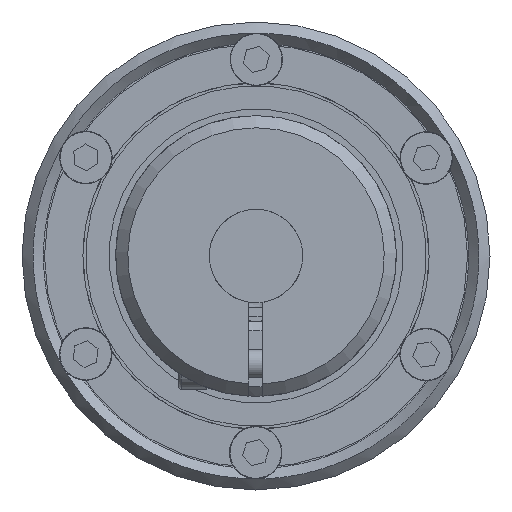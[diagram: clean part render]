
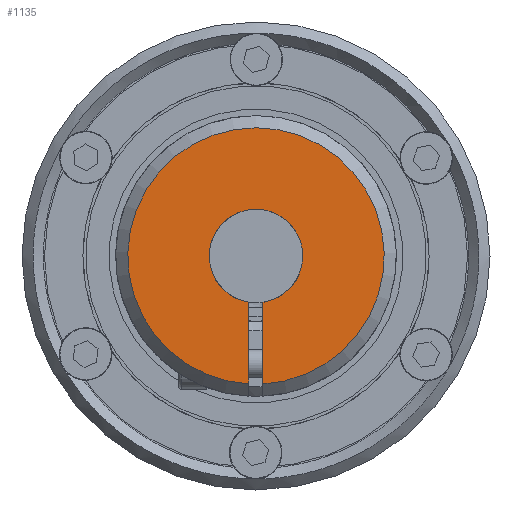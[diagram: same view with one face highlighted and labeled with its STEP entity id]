
A CAD part, left-side view. The second image highlights one B-rep face of the part: STEP entity #1135.
In plain terms, the highlighted planar face has unit normal (-1, 0, 0) as drawn and (0, 1, 0) by its records, which use the part's own axes.
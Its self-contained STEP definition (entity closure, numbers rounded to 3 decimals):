
#1135 = ADVANCED_FACE( '', ( #2187 ), #2188, .T. );
#2187 = FACE_OUTER_BOUND( '', #3266, .T. );
#2188 = PLANE( '', #3267 );
#3266 = EDGE_LOOP( '', ( #4869, #4870, #4871, #4872 ) );
#3267 = AXIS2_PLACEMENT_3D( '', #4873, #4874, #4875 );
#4869 = ORIENTED_EDGE( '', *, *, #6150, .T. );
#4870 = ORIENTED_EDGE( '', *, *, #6151, .T. );
#4871 = ORIENTED_EDGE( '', *, *, #5738, .F. );
#4872 = ORIENTED_EDGE( '', *, *, #6152, .T. );
#4873 = CARTESIAN_POINT( '', ( 0., 0., 0. ) );
#4874 = DIRECTION( '', ( 0., 1., 0. ) );
#4875 = DIRECTION( '', ( 0., 0., 1. ) );
#5738 = EDGE_CURVE( '', #6592, #6593, #6594, .T. );
#6150 = EDGE_CURVE( '', #7187, #7188, #7189, .T. );
#6151 = EDGE_CURVE( '', #7188, #6593, #7190, .T. );
#6152 = EDGE_CURVE( '', #6592, #7187, #7191, .T. );
#6592 = VERTEX_POINT( '', #7833 );
#6593 = VERTEX_POINT( '', #7834 );
#6594 = LINE( '', #7835, #7836 );
#7187 = VERTEX_POINT( '', #8826 );
#7188 = VERTEX_POINT( '', #8827 );
#7189 = LINE( '', #8828, #8829 );
#7190 = CIRCLE( '', #8830, 13.7 );
#7191 = CIRCLE( '', #8831, 5. );
#7833 = CARTESIAN_POINT( '', ( -0.75, 0., 4.943 ) );
#7834 = CARTESIAN_POINT( '', ( -0.75, 0., 13.679 ) );
#7835 = CARTESIAN_POINT( '', ( -0.75, 0., 0. ) );
#7836 = VECTOR( '', #9282, 1000. );
#8826 = CARTESIAN_POINT( '', ( 0.75, 0., 4.943 ) );
#8827 = CARTESIAN_POINT( '', ( 0.75, 0., 13.679 ) );
#8828 = CARTESIAN_POINT( '', ( 0.75, 0., 0. ) );
#8829 = VECTOR( '', #9863, 1000. );
#8830 = AXIS2_PLACEMENT_3D( '', #9864, #9865, #9866 );
#8831 = AXIS2_PLACEMENT_3D( '', #9867, #9868, #9869 );
#9282 = DIRECTION( '', ( 0., 0., 1. ) );
#9863 = DIRECTION( '', ( 0., 0., 1. ) );
#9864 = CARTESIAN_POINT( '', ( 0., 0., 0. ) );
#9865 = DIRECTION( '', ( 0., 1., 0. ) );
#9866 = DIRECTION( '', ( 0., 0., 1. ) );
#9867 = CARTESIAN_POINT( '', ( 0., 0., 0. ) );
#9868 = DIRECTION( '', ( 0., -1., 0. ) );
#9869 = DIRECTION( '', ( 0., 0., -1. ) );
